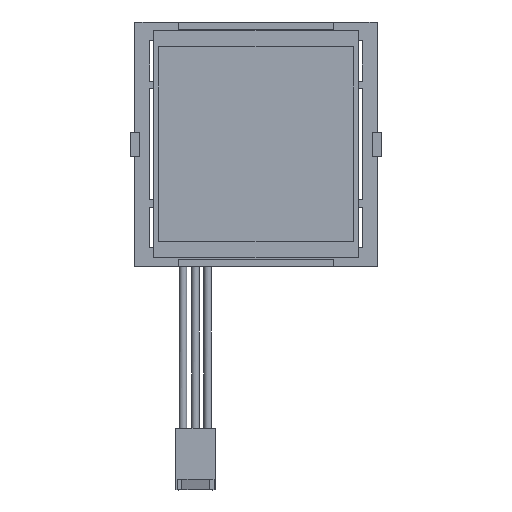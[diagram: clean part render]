
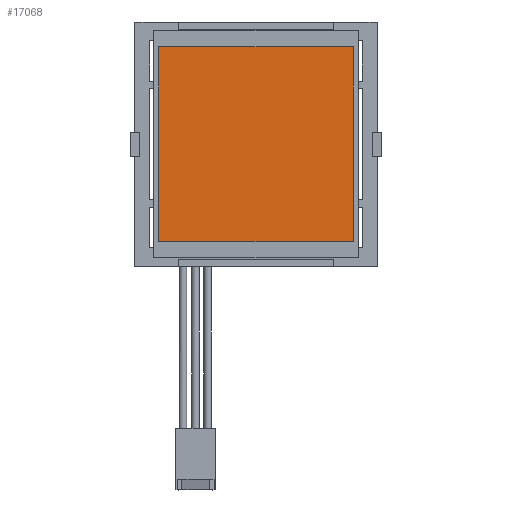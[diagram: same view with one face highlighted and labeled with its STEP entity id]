
A CAD part, front view. The second image highlights one B-rep face of the part: STEP entity #17068.
In plain terms, the highlighted planar face has unit normal (0, -1, 0).
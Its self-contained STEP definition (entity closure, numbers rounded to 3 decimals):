
#3221 = VECTOR ( 'NONE', #12011, 1000. ) ;
#5897 = PLANE ( 'NONE',  #24158 ) ;
#5963 = CARTESIAN_POINT ( 'NONE',  ( -20., -0.127, -20. ) ) ;
#8448 = CARTESIAN_POINT ( 'NONE',  ( -20., -0.127, -20. ) ) ;
#8516 = LINE ( 'NONE', #20231, #8552 ) ;
#8552 = VECTOR ( 'NONE', #40365, 1000. ) ;
#9312 = CARTESIAN_POINT ( 'NONE',  ( 20., -0.127, -20. ) ) ;
#9974 = DIRECTION ( 'NONE',  ( 0., 0., 1. ) ) ;
#12011 = DIRECTION ( 'NONE',  ( -1., 0., 0. ) ) ;
#12755 = VERTEX_POINT ( 'NONE', #42010 ) ;
#13118 = LINE ( 'NONE', #9312, #42961 ) ;
#13163 = VERTEX_POINT ( 'NONE', #30508 ) ;
#16633 = VERTEX_POINT ( 'NONE', #45723 ) ;
#17068 = ADVANCED_FACE ( 'NONE', ( #21911 ), #5897, .F. ) ;
#18914 = DIRECTION ( 'NONE',  ( 0., 0., 1. ) ) ;
#19904 = LINE ( 'NONE', #8448, #3221 ) ;
#20231 = CARTESIAN_POINT ( 'NONE',  ( -20., -0.127, 20. ) ) ;
#21419 = CARTESIAN_POINT ( 'NONE',  ( -20., -0.127, 20. ) ) ;
#21911 = FACE_OUTER_BOUND ( 'NONE', #39764, .T. ) ;
#23120 = EDGE_CURVE ( 'NONE', #25109, #13163, #19904, .T. ) ;
#24158 = AXIS2_PLACEMENT_3D ( 'NONE', #21419, #28830, #9974 ) ;
#25109 = VERTEX_POINT ( 'NONE', #34366 ) ;
#28262 = EDGE_CURVE ( 'NONE', #16633, #12755, #8516, .T. ) ;
#28623 = ORIENTED_EDGE ( 'NONE', *, *, #46276, .F. ) ;
#28830 = DIRECTION ( 'NONE',  ( 0., 1., 0. ) ) ;
#30508 = CARTESIAN_POINT ( 'NONE',  ( -20., -0.127, -20. ) ) ;
#30821 = ORIENTED_EDGE ( 'NONE', *, *, #23120, .F. ) ;
#32875 = VECTOR ( 'NONE', #18914, 1000. ) ;
#34366 = CARTESIAN_POINT ( 'NONE',  ( 20., -0.127, -20. ) ) ;
#39764 = EDGE_LOOP ( 'NONE', ( #47882, #30821, #28623, #43204 ) ) ;
#40361 = EDGE_CURVE ( 'NONE', #13163, #16633, #40878, .T. ) ;
#40365 = DIRECTION ( 'NONE',  ( 1., 0., 0. ) ) ;
#40878 = LINE ( 'NONE', #5963, #32875 ) ;
#40892 = DIRECTION ( 'NONE',  ( 0., 0., -1. ) ) ;
#42010 = CARTESIAN_POINT ( 'NONE',  ( 20., -0.127, 20. ) ) ;
#42961 = VECTOR ( 'NONE', #40892, 1000. ) ;
#43204 = ORIENTED_EDGE ( 'NONE', *, *, #28262, .F. ) ;
#45723 = CARTESIAN_POINT ( 'NONE',  ( -20., -0.127, 20. ) ) ;
#46276 = EDGE_CURVE ( 'NONE', #12755, #25109, #13118, .T. ) ;
#47882 = ORIENTED_EDGE ( 'NONE', *, *, #40361, .F. ) ;
